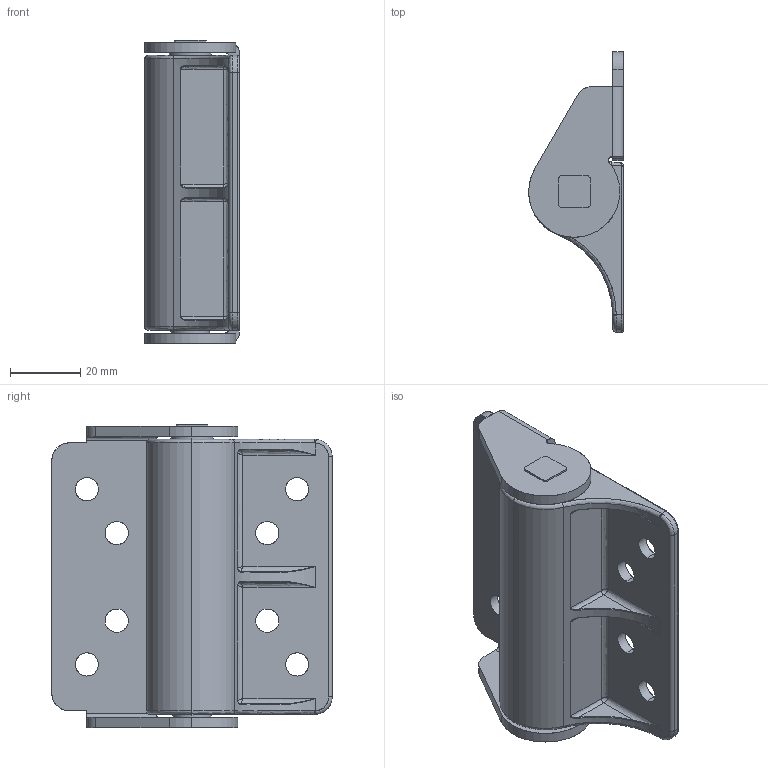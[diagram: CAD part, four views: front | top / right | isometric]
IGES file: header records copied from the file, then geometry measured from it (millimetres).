
Start section: SolidWorks IGES file using analytic representation for surfaces
Global section: file name: C:\3D-DATA\型式\R\【提出用】\IGS\FHD-A1.IGS; native system: SolidWorks 2014; preprocessor: SolidWorks 2014; author: flgijutsu; date: 140516.193928; units: millimetre
Bounding box: 27 x 80 x 86.5 mm (x, y, z)
Surface area: 21994.1 mm2 (no closed solid volume)
Topology: 0 solids, 0 shells, 192 faces, 2118 edges, 2100 vertices
Faces by surface type: revolution 101, bspline 91
